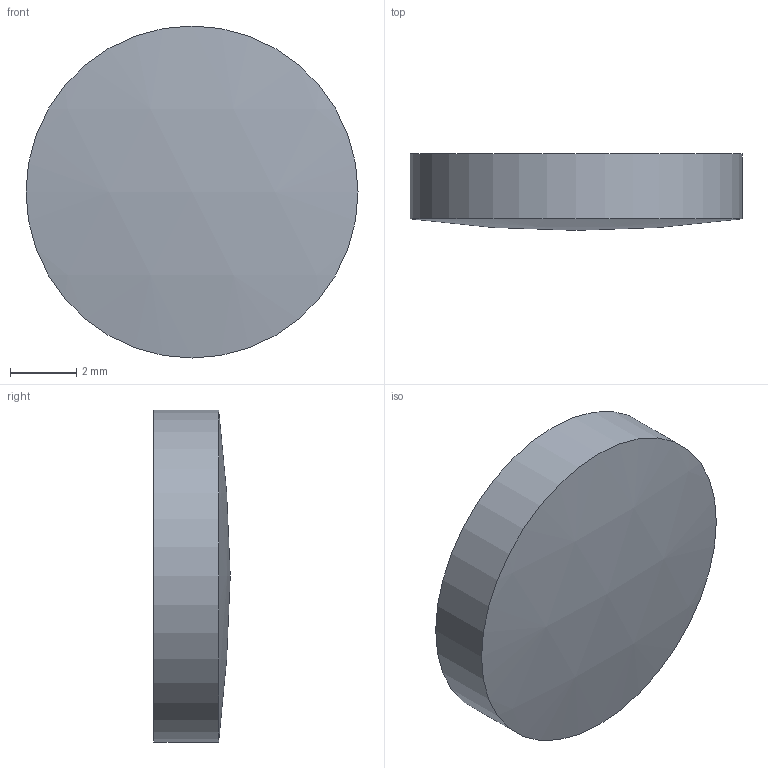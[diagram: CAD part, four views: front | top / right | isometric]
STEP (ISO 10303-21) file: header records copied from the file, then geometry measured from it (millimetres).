
FILE_DESCRIPTION((''),'2;1');
FILE_NAME('Y:\メカ関係\2能登便\素子ﾓﾃﾞﾙ（角屋さま野中さま⇒川島）\5月分\1_球面平凸レンズ-BK7\SLB-P\φ10\SLB-10-70P\SLB-10-70P.stp','2009-05-12T08:57:52',('usernoto011'),(''),'Autodesk Inventor 2008','Autodesk Inventor 2008','');
FILE_SCHEMA(('AUTOMOTIVE_DESIGN { 1 0 10303 214 1 1 1 1 }'));
Length unit declared in the file: millimetre
Products named in the file (1): SLB-10-70P
Bounding box: 10 x 2.3 x 10 mm (x, y, z)
Volume: 167.1 mm3; surface area: 218.9 mm2
Topology: 1 solids, 1 shells, 3 faces, 3 edges, 2 vertices
Faces by surface type: sphere 1, cylinder 1, plane 1
Full cylindrical faces by diameter (mm): 10 x1
Entity records: 80 total; most frequent: DIRECTION 12, CARTESIAN_POINT 8, AXIS2_PLACEMENT_3D 6, ORIENTED_EDGE 4, EDGE_LOOP 4, FACE_OUTER_BOUND 3, ADVANCED_FACE 3, DIMENSIONAL_EXPONENTS 2
